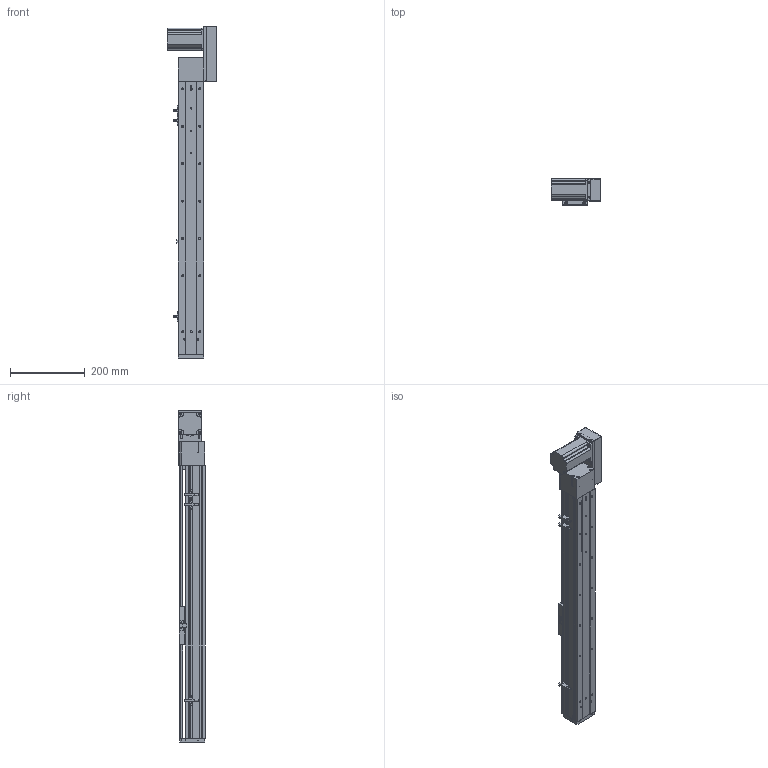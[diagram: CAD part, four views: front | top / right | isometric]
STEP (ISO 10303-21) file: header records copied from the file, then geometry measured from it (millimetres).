
FILE_DESCRIPTION (( 'STEP AP203' ), '1' );
FILE_NAME ('ML68-S550-CL.STEP', '2016-08-04T11:51:28', ( '' ), ( '' ), 'SwSTEP 2.0', 'SolidWorks 2014', '' );
FILE_SCHEMA (( 'CONFIG_CONTROL_DESIGN' ));
Length unit declared in the file: millimetre
Products named in the file (12): ML68菁釱^ML68-S550-CL; ML68滅鳥啣盓傅輸媼; ML68奻裔^ML68-S550-CL; QS68左右折电机板罩子; ML68-S550-CL; 換覜ん; ML68-BR傷啣; ML68雄赽釱; 三协电机MH201N2_預設; ML68傷啣; 60換覜結え; QS68酘衵殏萇儂啣
Assembly tree (13 placements, depth 2):
  ML68-S550-CL
    ML68菁釱^ML68-S550-CL
    ML68奻裔^ML68-S550-CL
    60換覜結え
    ML68-BR傷啣
    換覜ん  x3
    ML68傷啣
    三协电机MH201N2_預設
    ML68雄赽釱
    QS68酘衵殏萇儂啣
    QS68左右折电机板罩子
    ML68滅鳥啣盓傅輸媼
Bounding box: 133.5 x 70.5 x 888.5 mm (x, y, z)
Volume: 1601707.3 mm3; surface area: 590210.1 mm2
Topology: 13 solids, 13 shells, 903 faces, 2472 edges, 1571 vertices
Faces by surface type: cylinder 412, plane 399, cone 92
Entity records: 28636 total; most frequent: CARTESIAN_POINT 5466, DIRECTION 4686, ORIENTED_EDGE 4452, EDGE_CURVE 2226, AXIS2_PLACEMENT_3D 1691, VERTEX_POINT 1459, LINE 1304, VECTOR 1304
